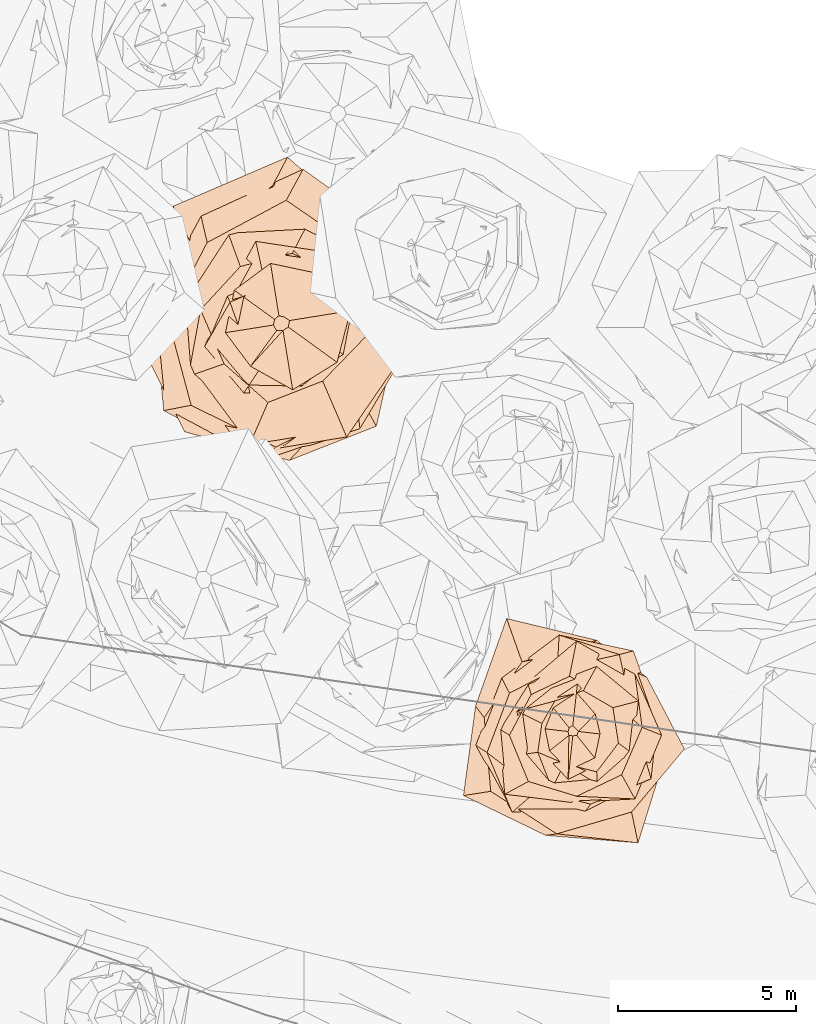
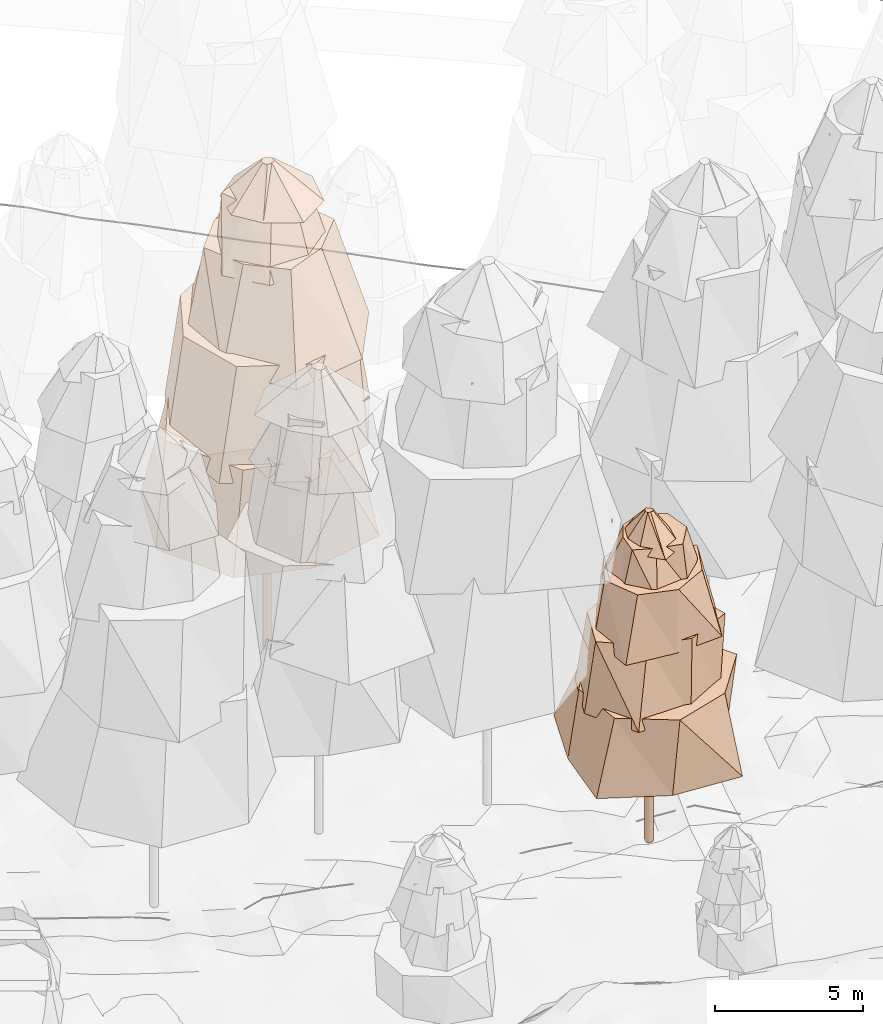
# Not in any storey, part 67 of 88: 2 geographic elements.
"""IFC4 model written with IfcOpenShell, lengths in metres."""

import ifcopenshell
import ifcopenshell.guid

model = None  # the IFC model being written
_history = None  # IfcOwnerHistory: only IFC2X3 demands one
_inside = {}  # id of a spatial element -> (the spatial element, [elements in it])
_under = {}  # id of a project, library or spatial element -> (it, [spatial elements below it])
_declared = {}  # id of a project -> (the project, [libraries it declares])
_typed = {}  # id of a type object -> (the type object, [elements of that type])
_made_of = {}  # id of a material, layer set ... -> (it, [elements and type objects made of it])


def new_model(schema):
    """Start an empty IFC model of exactly this schema.

    Asked for "IFC4X3", IfcOpenShell would pick the latest addendum, in which some entities
    have other attributes; the version numbers below select the first issue.
    IFC2X3 requires an IfcOwnerHistory on every rooted entity: one is made here for all.
    """
    global model, _history
    if schema == "IFC4X3":
        model = ifcopenshell.file(schema_version=(4, 3, 0, 0))
    else:
        model = ifcopenshell.file(schema=schema)
    _inside.clear()
    _under.clear()
    _declared.clear()
    _typed.clear()
    _made_of.clear()
    _history = None
    if model.schema == "IFC2X3":
        org = make("IfcOrganization", Name="unknown")
        user = make(
            "IfcPersonAndOrganization",
            ThePerson=make("IfcPerson", FamilyName="unknown"),
            TheOrganization=org,
        )
        app = make(
            "IfcApplication",
            ApplicationDeveloper=org,
            Version="unknown",
            ApplicationFullName="unknown",
            ApplicationIdentifier="unknown",
        )
        _history = make(
            "IfcOwnerHistory",
            OwningUser=user,
            OwningApplication=app,
            ChangeAction="ADDED",
            CreationDate=0,
        )
    return model


def make(cls, **values):
    """One entity of the class cls with the attributes given. An attribute that is None is left unset."""
    return model.create_entity(
        cls, **{name: value for name, value in values.items() if value is not None}
    )


def rooted(cls, **values):
    """An entity with a GlobalId (a new one), such as an element, a storey or a relation."""
    return make(cls, GlobalId=ifcopenshell.guid.new(), OwnerHistory=_history, **values)


def si_unit(unit_type, name, prefix=None):
    """IfcSIUnit, for example si_unit("LENGTHUNIT", "METRE", prefix="MILLI")."""
    return make("IfcSIUnit", UnitType=unit_type, Prefix=prefix, Name=name)


def assignment(units):
    """IfcUnitAssignment: the units of a project."""
    return None if units is None else make("IfcUnitAssignment", Units=units)


def point(xyz):
    """IfcCartesianPoint."""
    return None if xyz is None else make("IfcCartesianPoint", Coordinates=xyz)


def direction(xyz):
    """IfcDirection."""
    return None if xyz is None else make("IfcDirection", DirectionRatios=xyz)


def frame(location, z_axis=None, x_axis=None):
    """IfcAxis2Placement3D, a coordinate frame: its origin and axes. An axis left out is left unset."""
    return make(
        "IfcAxis2Placement3D",
        Location=point(location),
        Axis=direction(z_axis),
        RefDirection=direction(x_axis),
    )


def origin_with_axes():
    """The frame at (0, 0, 0) with the z axis (0, 0, 1) and the x axis (1, 0, 0) written out."""
    return frame((0.0, 0.0, 0.0), z_axis=(0.0, 0.0, 1.0), x_axis=(1.0, 0.0, 0.0))


def place(relative_to, where):
    """IfcLocalPlacement: puts the frame where relative to a parent placement (None: the world)."""
    return make(
        "IfcLocalPlacement", PlacementRelTo=relative_to, RelativePlacement=where
    )


def context(
    kind, dimensions, precision=None, world=None, true_north=None, identifier=None
):
    """IfcGeometricRepresentationContext, for example the 3D "Model" context."""
    return make(
        "IfcGeometricRepresentationContext",
        ContextIdentifier=identifier,
        ContextType=kind,
        CoordinateSpaceDimension=dimensions,
        Precision=precision,
        WorldCoordinateSystem=world,
        TrueNorth=true_north,
    )


def subcontext(parent, identifier, kind, view, scale=None):
    """IfcGeometricRepresentationSubContext, for example "Body" below "Model"."""
    return make(
        "IfcGeometricRepresentationSubContext",
        ContextIdentifier=identifier,
        ContextType=kind,
        ParentContext=parent,
        TargetScale=scale,
        TargetView=view,
    )


def project(units=None, contexts=None):
    """IfcProject with its units and contexts."""
    return rooted(
        "IfcProject",
        Name="project",
        RepresentationContexts=contexts,
        UnitsInContext=assignment(units),
    )


def spatial(cls, under=None, at=None, **own):
    """A site, building, storey or space (cls), placed at a placement, below another one or the project."""
    s = rooted(cls, ObjectPlacement=at, **own)
    if under is not None:
        _under.setdefault(under.id(), (under, []))[1].append(s)
    return s


def profile(cls, at=None, kind="AREA", **sizes):
    """A parametric profile (cls). Its sizes go by their IFC names, for example OverallWidth=200.0."""
    return make(cls, ProfileType=kind, Position=at, **sizes)


def circle(**sizes):
    """IfcCircleProfileDef."""
    return profile("IfcCircleProfileDef", **sizes)


def extrude(swept, where, along, depth):
    """IfcExtrudedAreaSolid: the profile swept, set in the frame where, extruded along a direction by depth."""
    return make(
        "IfcExtrudedAreaSolid",
        SweptArea=swept,
        Position=where,
        ExtrudedDirection=direction(along),
        Depth=depth,
    )


def faces_of(points, faces, orient=None, outer=None):
    """IfcFace entities. A face is a list of loops; a loop is a list of indices into points, from 0.

    orient and outer hold one flag for each loop. By default every Orientation is true, the
    first loop of a face is its IfcFaceOuterBound and the others are IfcFaceBound.
    """
    made = []
    for i, loops in enumerate(faces):
        bounds = []
        for j, loop in enumerate(loops):
            is_outer = j == 0 if outer is None else outer[i][j]
            bounds.append(
                make(
                    "IfcFaceOuterBound" if is_outer else "IfcFaceBound",
                    Bound=make("IfcPolyLoop", Polygon=[points[k] for k in loop]),
                    Orientation=True if orient is None else orient[i][j],
                )
            )
        made.append(make("IfcFace", Bounds=bounds))
    return made


def faceted_brep(points, faces, orient=None, outer=None, voids=None):
    """IfcFacetedBrep: a solid bounded by flat faces; with voids (closed shells), ...WithVoids."""
    shared = [point(p) for p in points]
    hull = make("IfcClosedShell", CfsFaces=faces_of(shared, faces, orient, outer))
    if voids is None:
        return make("IfcFacetedBrep", Outer=hull)
    return make(
        "IfcFacetedBrepWithVoids",
        Outer=hull,
        Voids=[
            make(cls, CfsFaces=faces_of(shared, fs, o, b)) for cls, fs, o, b in voids
        ],
    )


def shape(context_of_items, identifier, shape_type, items):
    """IfcShapeRepresentation: the items that make up one representation, for example the "Body"."""
    return make(
        "IfcShapeRepresentation",
        ContextOfItems=context_of_items,
        RepresentationIdentifier=identifier,
        RepresentationType=shape_type,
        Items=items,
    )


def made_of(thing, what):
    """Note that an element or type object is made of a material, layer set ...; save() writes the relation."""
    if what is not None:
        _made_of.setdefault(what.id(), (what, []))[1].append(thing)
    return thing


def element(
    cls,
    number,
    at=None,
    inside=None,
    cuts=None,
    type_object=None,
    material=None,
    context=None,
    identifier="Body",
    shape_type=None,
    held_by="IfcProductDefinitionShape",
    body=None,
    shapes=None,
    **own,
):
    """One element of the class cls, such as IfcWall. Its Tag is "e" and its number.

    at: its placement. inside: the storey or other place that contains it. cuts: it is an
    opening in that element (IfcRelVoidsElement). A single representation is given by context,
    identifier, shape_type and body (its items); several are given by shapes. held_by: the class
    of the entity that holds the representations. save() writes the other relations.
    """
    e = rooted(cls, Tag="e%d" % number, ObjectPlacement=at, **own)
    if body is not None:
        shapes = [shape(context, identifier, shape_type, body)]
    if shapes is not None:
        e.Representation = make(held_by, Representations=shapes)
    if inside is not None:
        _inside.setdefault(inside.id(), (inside, []))[1].append(e)
    if cuts is not None:
        rooted(
            "IfcRelVoidsElement", RelatingBuildingElement=cuts, RelatedOpeningElement=e
        )
    if type_object is not None:
        _typed.setdefault(type_object.id(), (type_object, []))[1].append(e)
    return made_of(e, material)


def aggregate(whole, parts):
    """IfcRelAggregates: a whole, such as a stair, and the parts it consists of."""
    return rooted("IfcRelAggregates", RelatingObject=whole, RelatedObjects=parts)


def save(model, path):
    """Write the relations noted so far, then the file.

    IfcRelAggregates (storeys below a building ...), IfcRelContainedInSpatialStructure (elements
    in a storey), IfcRelDefinesByType, IfcRelAssociatesMaterial and IfcRelDeclares: one each for
    every whole, place, type object, material and project.
    """
    for whole, parts in _under.values():
        aggregate(whole, parts)
    for where, things in _inside.values():
        rooted(
            "IfcRelContainedInSpatialStructure",
            RelatedElements=things,
            RelatingStructure=where,
        )
    for kind, things in _typed.values():
        rooted("IfcRelDefinesByType", RelatedObjects=things, RelatingType=kind)
    for what, things in _made_of.values():
        rooted("IfcRelAssociatesMaterial", RelatedObjects=things, RelatingMaterial=what)
    for by, libraries in _declared.values():
        rooted("IfcRelDeclares", RelatingContext=by, RelatedDefinitions=libraries)
    model.write(path)


model = new_model("IFC4")

# Units and contexts
model_context = context("Model", 3, precision=1e-05, world=origin_with_axes())
body_context = subcontext(model_context, "Body", "Model", "MODEL_VIEW")
ifc_project = project(units=[si_unit("LENGTHUNIT", "METRE"), si_unit("AREAUNIT", "SQUARE_METRE"), si_unit("VOLUMEUNIT", "CUBIC_METRE"), si_unit("PLANEANGLEUNIT", "RADIAN")], contexts=[model_context])

# Sites
site_1_placement = place(None, origin_with_axes())
site_1 = spatial("IfcSite", under=ifc_project, at=site_1_placement, Name="CH907857693633", CompositionType="ELEMENT")
site_2_placement = place(None, origin_with_axes())
site_2 = spatial("IfcSite", under=site_1, at=site_2_placement, Name="Simulated_forest", CompositionType="ELEMENT")

# Geographic elements
geographic_element_1_placement = place(None, frame((203.354991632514, 85.3565316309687, 5.23565673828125), z_axis=(0.0, 0.0, 1.0), x_axis=(1.0, 0.0, 0.0)))
element("IfcGeographicElement", 1, at=geographic_element_1_placement, inside=site_2, Name="Tree_SIMULATED_FOREST_DENSE", ObjectType="VEGETATION", PredefinedType="USERDEFINED", context=body_context, shape_type="Brep", body=[
    extrude(circle(Radius=0.15), origin_with_axes(), (0.0, 0.0, 1.0), 5.39744964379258),
    faceted_brep([(3.30878021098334, -0.12959812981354, 5.39744964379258), (2.68405214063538, -2.90288083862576, 5.39744964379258), (-0.1351167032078, -3.44967534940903, 5.39744964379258), (-2.8058226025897, -2.59431047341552, 5.39744964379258), (-4.22395025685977, 0.165443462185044, 5.39744964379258), (-3.03426270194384, 3.28164379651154, 5.39744964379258), (0.182622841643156, 4.66255836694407, 5.39744964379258), (2.69506072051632, 2.49189818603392, 5.39744964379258), (1.95241524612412, 2.2057616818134, 10.075465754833), (-0.235010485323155, 3.85722883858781, 10.075465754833), (-2.54001492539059, 2.248277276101, 10.075465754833), (-4.10807812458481, -0.250294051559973, 10.075465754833), (-2.70891997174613, -3.06043086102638, 10.075465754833), (0.235541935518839, -3.86595153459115, 10.075465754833), (2.09230340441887, -1.85198840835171, 10.075465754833), (3.7613809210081, 0.229170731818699, 10.075465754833), (2.69506072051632, 2.49189818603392, 5.39744964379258), (0.182622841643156, 4.66255836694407, 5.39744964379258), (-0.235010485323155, 3.85722883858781, 10.075465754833), (1.95241524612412, 2.2057616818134, 10.075465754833), (0.182622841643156, 4.66255836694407, 5.39744964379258), (-3.03426270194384, 3.28164379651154, 5.39744964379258), (-2.54001492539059, 2.248277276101, 10.075465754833), (-0.235010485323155, 3.85722883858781, 10.075465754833), (-3.03426270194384, 3.28164379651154, 5.39744964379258), (-4.22395025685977, 0.165443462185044, 5.39744964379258), (-4.10807812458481, -0.250294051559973, 10.075465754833), (-2.54001492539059, 2.248277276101, 10.075465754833), (-4.22395025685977, 0.165443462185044, 5.39744964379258), (-2.8058226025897, -2.59431047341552, 5.39744964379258), (-2.70891997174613, -3.06043086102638, 10.075465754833), (-4.10807812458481, -0.250294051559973, 10.075465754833), (-2.8058226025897, -2.59431047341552, 5.39744964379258), (-0.1351167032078, -3.44967534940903, 5.39744964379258), (0.235541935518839, -3.86595153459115, 10.075465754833), (-2.70891997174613, -3.06043086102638, 10.075465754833), (-0.1351167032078, -3.44967534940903, 5.39744964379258), (2.68405214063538, -2.90288083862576, 5.39744964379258), (2.09230340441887, -1.85198840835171, 10.075465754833), (0.235541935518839, -3.86595153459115, 10.075465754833), (2.68405214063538, -2.90288083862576, 5.39744964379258), (3.30878021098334, -0.12959812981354, 5.39744964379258), (3.7613809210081, 0.229170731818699, 10.075465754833), (2.09230340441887, -1.85198840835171, 10.075465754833), (3.30878021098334, -0.12959812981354, 5.39744964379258), (2.69506072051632, 2.49189818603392, 5.39744964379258), (1.95241524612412, 2.2057616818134, 10.075465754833), (3.7613809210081, 0.229170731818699, 10.075465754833)], [[[0, 1, 2, 3, 4, 5, 6, 7]], [[8, 9, 10, 11, 12, 13, 14, 15]], [[16, 17, 18, 19]], [[20, 21, 22, 23]], [[24, 25, 26, 27]], [[28, 29, 30, 31]], [[32, 33, 34, 35]], [[36, 37, 38, 39]], [[40, 41, 42, 43]], [[44, 45, 46, 47]]]),
    faceted_brep([(3.67914572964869, -0.529974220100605, 9.37376333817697), (2.22179501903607, -2.96960699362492, 9.37376333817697), (-0.5652646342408, -3.92413609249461, 9.37376333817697), (-3.29466813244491, -2.46499865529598, 9.37376333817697), (-3.58811967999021, 0.516862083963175, 9.37376333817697), (-2.24671112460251, 3.0029093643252, 9.37376333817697), (0.622586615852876, 4.3220722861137, 9.37376333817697), (3.25563357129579, 2.43579385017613, 9.37376333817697), (2.21023597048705, 2.02762359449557, 13.8144603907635), (0.148698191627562, 3.450817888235, 13.8144603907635), (-2.0746325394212, 2.26147864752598, 13.8144603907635), (-3.18376103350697, 0.137190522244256, 13.8144603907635), (-2.52448567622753, -2.31590960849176, 13.8144603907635), (-0.150479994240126, -3.49216792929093, 13.8144603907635), (2.14498495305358, -2.33816715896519, 13.8144603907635), (2.99810567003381, -0.129190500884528, 13.8144603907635), (3.25563357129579, 2.43579385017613, 9.37376333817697), (0.622586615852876, 4.3220722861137, 9.37376333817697), (0.148698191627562, 3.450817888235, 13.8144603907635), (2.21023597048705, 2.02762359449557, 13.8144603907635), (0.622586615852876, 4.3220722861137, 9.37376333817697), (-2.24671112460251, 3.0029093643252, 9.37376333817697), (-2.0746325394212, 2.26147864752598, 13.8144603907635), (0.148698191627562, 3.450817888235, 13.8144603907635), (-2.24671112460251, 3.0029093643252, 9.37376333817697), (-3.58811967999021, 0.516862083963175, 9.37376333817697), (-3.18376103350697, 0.137190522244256, 13.8144603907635), (-2.0746325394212, 2.26147864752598, 13.8144603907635), (-3.58811967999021, 0.516862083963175, 9.37376333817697), (-3.29466813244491, -2.46499865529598, 9.37376333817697), (-2.52448567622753, -2.31590960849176, 13.8144603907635), (-3.18376103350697, 0.137190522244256, 13.8144603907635), (-3.29466813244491, -2.46499865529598, 9.37376333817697), (-0.5652646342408, -3.92413609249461, 9.37376333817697), (-0.150479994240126, -3.49216792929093, 13.8144603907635), (-2.52448567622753, -2.31590960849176, 13.8144603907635), (-0.5652646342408, -3.92413609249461, 9.37376333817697), (2.22179501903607, -2.96960699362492, 9.37376333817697), (2.14498495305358, -2.33816715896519, 13.8144603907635), (-0.150479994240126, -3.49216792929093, 13.8144603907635), (2.22179501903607, -2.96960699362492, 9.37376333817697), (3.67914572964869, -0.529974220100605, 9.37376333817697), (2.99810567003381, -0.129190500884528, 13.8144603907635), (2.14498495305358, -2.33816715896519, 13.8144603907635), (3.67914572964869, -0.529974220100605, 9.37376333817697), (3.25563357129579, 2.43579385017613, 9.37376333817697), (2.21023597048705, 2.02762359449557, 13.8144603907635), (2.99810567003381, -0.129190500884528, 13.8144603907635)], [[[0, 1, 2, 3, 4, 5, 6, 7]], [[8, 9, 10, 11, 12, 13, 14, 15]], [[16, 17, 18, 19]], [[20, 21, 22, 23]], [[24, 25, 26, 27]], [[28, 29, 30, 31]], [[32, 33, 34, 35]], [[36, 37, 38, 39]], [[40, 41, 42, 43]], [[44, 45, 46, 47]]]),
    faceted_brep([(3.42465440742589, -0.919409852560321, 13.1483558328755), (1.84818772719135, -3.20473553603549, 13.1483558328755), (-0.986219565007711, -3.67350988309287, 13.1483558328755), (-2.60231012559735, -1.50076584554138, 13.1483558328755), (-2.77741871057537, 0.745647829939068, 13.1483558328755), (-1.53397814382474, 2.65989985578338, 13.1483558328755), (0.746198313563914, 2.77946917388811, 13.1483558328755), (3.19497496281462, 1.84255875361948, 13.1483558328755), (1.73551945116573, 1.24718227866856, 17.0019377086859), (0.320642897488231, 1.95844629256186, 17.0019377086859), (-1.14089431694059, 1.5876141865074, 17.0019377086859), (-2.26115726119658, 0.370203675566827, 17.0019377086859), (-1.59965706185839, -1.14954859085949, 17.0019377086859), (-0.365926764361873, -2.2350344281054, 17.0019377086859), (1.17475207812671, -1.63472903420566, 17.0019377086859), (2.37875321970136, -0.389456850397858, 17.0019377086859), (3.19497496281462, 1.84255875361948, 13.1483558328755), (0.746198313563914, 2.77946917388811, 13.1483558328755), (0.320642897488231, 1.95844629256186, 17.0019377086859), (1.73551945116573, 1.24718227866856, 17.0019377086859), (0.746198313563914, 2.77946917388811, 13.1483558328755), (-1.53397814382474, 2.65989985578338, 13.1483558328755), (-1.14089431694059, 1.5876141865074, 17.0019377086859), (0.320642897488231, 1.95844629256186, 17.0019377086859), (-1.53397814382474, 2.65989985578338, 13.1483558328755), (-2.77741871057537, 0.745647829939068, 13.1483558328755), (-2.26115726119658, 0.370203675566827, 17.0019377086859), (-1.14089431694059, 1.5876141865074, 17.0019377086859), (-2.77741871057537, 0.745647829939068, 13.1483558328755), (-2.60231012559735, -1.50076584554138, 13.1483558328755), (-1.59965706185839, -1.14954859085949, 17.0019377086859), (-2.26115726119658, 0.370203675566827, 17.0019377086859), (-2.60231012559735, -1.50076584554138, 13.1483558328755), (-0.986219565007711, -3.67350988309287, 13.1483558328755), (-0.365926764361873, -2.2350344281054, 17.0019377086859), (-1.59965706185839, -1.14954859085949, 17.0019377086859), (-0.986219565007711, -3.67350988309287, 13.1483558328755), (1.84818772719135, -3.20473553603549, 13.1483558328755), (1.17475207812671, -1.63472903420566, 17.0019377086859), (-0.365926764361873, -2.2350344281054, 17.0019377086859), (1.84818772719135, -3.20473553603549, 13.1483558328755), (3.42465440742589, -0.919409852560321, 13.1483558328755), (2.37875321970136, -0.389456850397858, 17.0019377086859), (1.17475207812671, -1.63472903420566, 17.0019377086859), (3.42465440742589, -0.919409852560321, 13.1483558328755), (3.19497496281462, 1.84255875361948, 13.1483558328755), (1.73551945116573, 1.24718227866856, 17.0019377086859), (2.37875321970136, -0.389456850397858, 17.0019377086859)], [[[0, 1, 2, 3, 4, 5, 6, 7]], [[8, 9, 10, 11, 12, 13, 14, 15]], [[16, 17, 18, 19]], [[20, 21, 22, 23]], [[24, 25, 26, 27]], [[28, 29, 30, 31]], [[32, 33, 34, 35]], [[36, 37, 38, 39]], [[40, 41, 42, 43]], [[44, 45, 46, 47]]]),
    faceted_brep([(1.88974833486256, -0.999731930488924, 16.4239004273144), (0.617847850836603, -2.00587221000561, 16.4239004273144), (-1.04263790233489, -1.97085156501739, 16.4239004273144), (-2.14572780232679, -0.660926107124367, 16.4239004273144), (-1.52566065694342, 0.807118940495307, 16.4239004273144), (-0.706369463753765, 2.29326180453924, 16.4239004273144), (1.07101521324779, 2.02449192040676, 16.4239004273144), (2.21772980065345, 0.683104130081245, 16.4239004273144), (1.42101481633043, 0.598782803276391, 18.8331390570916), (0.420837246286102, 1.03377885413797, 18.8331390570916), (-0.428173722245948, 1.0161300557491, 18.8331390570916), (-1.43252962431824, 0.583163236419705, 18.8331390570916), (-1.06208864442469, -0.447539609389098, 18.8331390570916), (-0.421628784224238, -1.03572325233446, 18.8331390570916), (0.44994177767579, -1.06778940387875, 18.8331390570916), (1.3084044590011, -0.532633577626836, 18.8331390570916), (2.21772980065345, 0.683104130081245, 16.4239004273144), (1.07101521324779, 2.02449192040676, 16.4239004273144), (0.420837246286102, 1.03377885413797, 18.8331390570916), (1.42101481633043, 0.598782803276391, 18.8331390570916), (1.07101521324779, 2.02449192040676, 16.4239004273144), (-0.706369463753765, 2.29326180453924, 16.4239004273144), (-0.428173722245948, 1.0161300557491, 18.8331390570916), (0.420837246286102, 1.03377885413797, 18.8331390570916), (-0.706369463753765, 2.29326180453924, 16.4239004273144), (-1.52566065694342, 0.807118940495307, 16.4239004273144), (-1.43252962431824, 0.583163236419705, 18.8331390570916), (-0.428173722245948, 1.0161300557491, 18.8331390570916), (-1.52566065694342, 0.807118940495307, 16.4239004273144), (-2.14572780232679, -0.660926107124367, 16.4239004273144), (-1.06208864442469, -0.447539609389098, 18.8331390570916), (-1.43252962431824, 0.583163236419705, 18.8331390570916), (-2.14572780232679, -0.660926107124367, 16.4239004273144), (-1.04263790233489, -1.97085156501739, 16.4239004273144), (-0.421628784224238, -1.03572325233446, 18.8331390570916), (-1.06208864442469, -0.447539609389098, 18.8331390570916), (-1.04263790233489, -1.97085156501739, 16.4239004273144), (0.617847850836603, -2.00587221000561, 16.4239004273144), (0.44994177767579, -1.06778940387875, 18.8331390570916), (-0.421628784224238, -1.03572325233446, 18.8331390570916), (0.617847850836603, -2.00587221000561, 16.4239004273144), (1.88974833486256, -0.999731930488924, 16.4239004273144), (1.3084044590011, -0.532633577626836, 18.8331390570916), (0.44994177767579, -1.06778940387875, 18.8331390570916), (1.88974833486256, -0.999731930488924, 16.4239004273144), (2.21772980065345, 0.683104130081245, 16.4239004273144), (1.42101481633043, 0.598782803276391, 18.8331390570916), (1.3084044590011, -0.532633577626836, 18.8331390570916)], [[[0, 1, 2, 3, 4, 5, 6, 7]], [[8, 9, 10, 11, 12, 13, 14, 15]], [[16, 17, 18, 19]], [[20, 21, 22, 23]], [[24, 25, 26, 27]], [[28, 29, 30, 31]], [[32, 33, 34, 35]], [[36, 37, 38, 39]], [[40, 41, 42, 43]], [[44, 45, 46, 47]]]),
    faceted_brep([(1.57759669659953, -1.10720765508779, 18.471753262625), (0.329560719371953, -1.88100907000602, 18.471753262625), (-0.85490700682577, -1.21810797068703, 18.471753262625), (-1.56076653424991, -0.273452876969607, 18.471753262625), (-1.31126616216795, 0.92028839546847, 18.471753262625), (-0.293423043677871, 1.67474876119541, 18.471753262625), (0.985482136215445, 1.40415698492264, 18.471753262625), (1.95445928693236, 0.342429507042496, 18.471753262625), (0.240462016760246, 0.0674422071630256, 20.0073572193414), (0.0941345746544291, 0.167520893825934, 20.0073572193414), (-0.0566605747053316, 0.202020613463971, 20.0073572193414), (-0.178332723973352, 0.100210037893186, 20.0073572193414), (-0.210072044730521, -0.0589187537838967, 20.0073572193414), (-0.121534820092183, -0.216282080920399, 20.0073572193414), (0.0588254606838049, -0.209739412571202, 20.0073572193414), (0.207638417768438, -0.116677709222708, 20.0073572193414), (1.95445928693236, 0.342429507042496, 18.471753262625), (0.985482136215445, 1.40415698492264, 18.471753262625), (0.0941345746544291, 0.167520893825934, 20.0073572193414), (0.240462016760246, 0.0674422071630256, 20.0073572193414), (0.985482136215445, 1.40415698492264, 18.471753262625), (-0.293423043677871, 1.67474876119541, 18.471753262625), (-0.0566605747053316, 0.202020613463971, 20.0073572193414), (0.0941345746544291, 0.167520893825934, 20.0073572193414), (-0.293423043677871, 1.67474876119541, 18.471753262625), (-1.31126616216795, 0.92028839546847, 18.471753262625), (-0.178332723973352, 0.100210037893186, 20.0073572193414), (-0.0566605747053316, 0.202020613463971, 20.0073572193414), (-1.31126616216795, 0.92028839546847, 18.471753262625), (-1.56076653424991, -0.273452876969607, 18.471753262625), (-0.210072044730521, -0.0589187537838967, 20.0073572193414), (-0.178332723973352, 0.100210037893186, 20.0073572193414), (-1.56076653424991, -0.273452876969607, 18.471753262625), (-0.85490700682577, -1.21810797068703, 18.471753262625), (-0.121534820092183, -0.216282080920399, 20.0073572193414), (-0.210072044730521, -0.0589187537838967, 20.0073572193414), (-0.85490700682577, -1.21810797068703, 18.471753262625), (0.329560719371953, -1.88100907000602, 18.471753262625), (0.0588254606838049, -0.209739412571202, 20.0073572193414), (-0.121534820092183, -0.216282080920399, 20.0073572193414), (0.329560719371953, -1.88100907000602, 18.471753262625), (1.57759669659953, -1.10720765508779, 18.471753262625), (0.207638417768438, -0.116677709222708, 20.0073572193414), (0.0588254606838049, -0.209739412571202, 20.0073572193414), (1.57759669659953, -1.10720765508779, 18.471753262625), (1.95445928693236, 0.342429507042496, 18.471753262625), (0.240462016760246, 0.0674422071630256, 20.0073572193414), (0.207638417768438, -0.116677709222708, 20.0073572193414)], [[[0, 1, 2, 3, 4, 5, 6, 7]], [[8, 9, 10, 11, 12, 13, 14, 15]], [[16, 17, 18, 19]], [[20, 21, 22, 23]], [[24, 25, 26, 27]], [[28, 29, 30, 31]], [[32, 33, 34, 35]], [[36, 37, 38, 39]], [[40, 41, 42, 43]], [[44, 45, 46, 47]]]),
])
geographic_element_2_placement = place(None, frame((211.562755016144, 73.8679273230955, 1.38568115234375), z_axis=(0.0, 0.0, 1.0), x_axis=(1.0, 0.0, 0.0)))
element("IfcGeographicElement", 2, at=geographic_element_2_placement, inside=site_2, Name="Tree_SIMULATED_FOREST_DENSE", ObjectType="VEGETATION", PredefinedType="USERDEFINED", context=body_context, shape_type="Brep", body=[
    extrude(circle(Radius=0.15), origin_with_axes(), (0.0, 0.0, 1.0), 3.87971884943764),
    faceted_brep([(2.60063330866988, -0.678986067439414, 3.87971884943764), (1.83530801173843, -3.13226672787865, 3.87971884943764), (-0.762932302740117, -2.92216181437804, 3.87971884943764), (-3.07528753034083, -1.80192184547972, 3.87971884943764), (-2.73501636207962, 0.714071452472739, 3.87971884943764), (-1.86156593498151, 3.17708036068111, 3.87971884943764), (0.670105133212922, 2.56661780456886, 3.87971884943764), (2.18152175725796, 1.27823225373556, 3.87971884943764), (2.08401798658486, 1.51953345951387, 6.84660622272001), (0.364982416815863, 2.32997159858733, 6.84660622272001), (-1.42712852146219, 1.95728596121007, 6.84660622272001), (-2.49128745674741, 0.390252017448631, 6.84660622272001), (-2.30783081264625, -1.68272354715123, 6.84660622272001), (-0.450995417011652, -2.87906064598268, 6.84660622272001), (1.65231599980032, -2.2661273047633, 6.84660622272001), (3.13873434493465, -0.491672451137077, 6.84660622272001), (2.18152175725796, 1.27823225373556, 3.87971884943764), (0.670105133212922, 2.56661780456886, 3.87971884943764), (0.364982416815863, 2.32997159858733, 6.84660622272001), (2.08401798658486, 1.51953345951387, 6.84660622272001), (0.670105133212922, 2.56661780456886, 3.87971884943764), (-1.86156593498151, 3.17708036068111, 3.87971884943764), (-1.42712852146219, 1.95728596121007, 6.84660622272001), (0.364982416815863, 2.32997159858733, 6.84660622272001), (-1.86156593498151, 3.17708036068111, 3.87971884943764), (-2.73501636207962, 0.714071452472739, 3.87971884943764), (-2.49128745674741, 0.390252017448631, 6.84660622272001), (-1.42712852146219, 1.95728596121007, 6.84660622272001), (-2.73501636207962, 0.714071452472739, 3.87971884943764), (-3.07528753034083, -1.80192184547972, 3.87971884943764), (-2.30783081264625, -1.68272354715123, 6.84660622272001), (-2.49128745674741, 0.390252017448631, 6.84660622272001), (-3.07528753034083, -1.80192184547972, 3.87971884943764), (-0.762932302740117, -2.92216181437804, 3.87971884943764), (-0.450995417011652, -2.87906064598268, 6.84660622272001), (-2.30783081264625, -1.68272354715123, 6.84660622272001), (-0.762932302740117, -2.92216181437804, 3.87971884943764), (1.83530801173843, -3.13226672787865, 3.87971884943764), (1.65231599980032, -2.2661273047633, 6.84660622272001), (-0.450995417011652, -2.87906064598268, 6.84660622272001), (1.83530801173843, -3.13226672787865, 3.87971884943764), (2.60063330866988, -0.678986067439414, 3.87971884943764), (3.13873434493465, -0.491672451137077, 6.84660622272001), (1.65231599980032, -2.2661273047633, 6.84660622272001), (2.60063330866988, -0.678986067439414, 3.87971884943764), (2.18152175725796, 1.27823225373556, 3.87971884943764), (2.08401798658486, 1.51953345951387, 6.84660622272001), (3.13873434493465, -0.491672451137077, 6.84660622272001)], [[[0, 1, 2, 3, 4, 5, 6, 7]], [[8, 9, 10, 11, 12, 13, 14, 15]], [[16, 17, 18, 19]], [[20, 21, 22, 23]], [[24, 25, 26, 27]], [[28, 29, 30, 31]], [[32, 33, 34, 35]], [[36, 37, 38, 39]], [[40, 41, 42, 43]], [[44, 45, 46, 47]]]),
    faceted_brep([(1.93154183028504, -1.45131850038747, 6.40157311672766), (0.323390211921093, -2.2780732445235, 6.40157311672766), (-1.70581469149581, -2.27024766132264, 6.40157311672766), (-2.72832387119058, -0.387306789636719, 6.40157311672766), (-1.99818183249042, 1.50139034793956, 6.40157311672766), (-0.384846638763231, 2.71099371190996, 6.40157311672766), (1.70324476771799, 2.26682738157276, 6.40157311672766), (2.38186999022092, 0.338124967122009, 6.40157311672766), (1.70103189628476, 0.418102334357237, 9.36893832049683), (1.30936577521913, 2.16280138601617, 9.36893832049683), (-0.435801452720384, 1.77304002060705, 9.36893832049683), (-1.78157230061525, 1.07856866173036, 9.36893832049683), (-2.41204888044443, -0.592865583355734, 9.36893832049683), (-1.01224874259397, -1.672025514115, 9.36893832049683), (0.501972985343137, -2.04225613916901, 9.36893832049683), (2.19871433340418, -1.3311075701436, 9.36893832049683), (2.38186999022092, 0.338124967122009, 6.40157311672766), (1.70324476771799, 2.26682738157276, 6.40157311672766), (1.30936577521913, 2.16280138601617, 9.36893832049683), (1.70103189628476, 0.418102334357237, 9.36893832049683), (1.70324476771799, 2.26682738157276, 6.40157311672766), (-0.384846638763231, 2.71099371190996, 6.40157311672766), (-0.435801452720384, 1.77304002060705, 9.36893832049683), (1.30936577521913, 2.16280138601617, 9.36893832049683), (-0.384846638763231, 2.71099371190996, 6.40157311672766), (-1.99818183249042, 1.50139034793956, 6.40157311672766), (-1.78157230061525, 1.07856866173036, 9.36893832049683), (-0.435801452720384, 1.77304002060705, 9.36893832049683), (-1.99818183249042, 1.50139034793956, 6.40157311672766), (-2.72832387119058, -0.387306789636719, 6.40157311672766), (-2.41204888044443, -0.592865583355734, 9.36893832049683), (-1.78157230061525, 1.07856866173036, 9.36893832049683), (-2.72832387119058, -0.387306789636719, 6.40157311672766), (-1.70581469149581, -2.27024766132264, 6.40157311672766), (-1.01224874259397, -1.672025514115, 9.36893832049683), (-2.41204888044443, -0.592865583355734, 9.36893832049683), (-1.70581469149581, -2.27024766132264, 6.40157311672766), (0.323390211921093, -2.2780732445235, 6.40157311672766), (0.501972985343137, -2.04225613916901, 9.36893832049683), (-1.01224874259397, -1.672025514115, 9.36893832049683), (0.323390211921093, -2.2780732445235, 6.40157311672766), (1.93154183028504, -1.45131850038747, 6.40157311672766), (2.19871433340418, -1.3311075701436, 9.36893832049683), (0.501972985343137, -2.04225613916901, 9.36893832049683), (1.93154183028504, -1.45131850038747, 6.40157311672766), (2.38186999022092, 0.338124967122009, 6.40157311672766), (1.70103189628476, 0.418102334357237, 9.36893832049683), (2.19871433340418, -1.3311075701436, 9.36893832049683)], [[[0, 1, 2, 3, 4, 5, 6, 7]], [[8, 9, 10, 11, 12, 13, 14, 15]], [[16, 17, 18, 19]], [[20, 21, 22, 23]], [[24, 25, 26, 27]], [[28, 29, 30, 31]], [[32, 33, 34, 35]], [[36, 37, 38, 39]], [[40, 41, 42, 43]], [[44, 45, 46, 47]]]),
    faceted_brep([(2.49629236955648, -0.10144620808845, 8.92383353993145), (1.7498303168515, -1.89807670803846, 8.92383353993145), (-0.080942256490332, -1.99175051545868, 8.92383353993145), (-1.91327886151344, -1.76384512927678, 8.92383353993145), (-2.08019498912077, 0.0845365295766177, 8.92383353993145), (-1.27043427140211, 1.37806601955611, 8.92383353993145), (0.103150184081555, 2.53822219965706, 8.92383353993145), (1.74723778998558, 1.61077244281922, 8.92383353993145), (0.898979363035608, 1.01263130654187, 11.3765612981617), (-0.0923474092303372, 1.55327121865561, 11.3765612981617), (-1.1702047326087, 1.03886764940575, 11.3765612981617), (-1.7840564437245, -0.106068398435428, 11.3765612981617), (-1.2487413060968, -1.40661131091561, 11.3765612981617), (0.10833900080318, -1.82224767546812, 11.3765612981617), (1.37323643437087, -1.21911223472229, 11.3765612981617), (1.94937165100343, 0.115896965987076, 11.3765612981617), (1.74723778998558, 1.61077244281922, 8.92383353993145), (0.103150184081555, 2.53822219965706, 8.92383353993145), (-0.0923474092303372, 1.55327121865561, 11.3765612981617), (0.898979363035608, 1.01263130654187, 11.3765612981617), (0.103150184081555, 2.53822219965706, 8.92383353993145), (-1.27043427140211, 1.37806601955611, 8.92383353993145), (-1.1702047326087, 1.03886764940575, 11.3765612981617), (-0.0923474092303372, 1.55327121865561, 11.3765612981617), (-1.27043427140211, 1.37806601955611, 8.92383353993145), (-2.08019498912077, 0.0845365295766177, 8.92383353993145), (-1.7840564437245, -0.106068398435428, 11.3765612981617), (-1.1702047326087, 1.03886764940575, 11.3765612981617), (-2.08019498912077, 0.0845365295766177, 8.92383353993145), (-1.91327886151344, -1.76384512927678, 8.92383353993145), (-1.2487413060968, -1.40661131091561, 11.3765612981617), (-1.7840564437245, -0.106068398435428, 11.3765612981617), (-1.91327886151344, -1.76384512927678, 8.92383353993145), (-0.080942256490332, -1.99175051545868, 8.92383353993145), (0.10833900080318, -1.82224767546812, 11.3765612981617), (-1.2487413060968, -1.40661131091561, 11.3765612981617), (-0.080942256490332, -1.99175051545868, 8.92383353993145), (1.7498303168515, -1.89807670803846, 8.92383353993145), (1.37323643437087, -1.21911223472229, 11.3765612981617), (0.10833900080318, -1.82224767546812, 11.3765612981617), (1.7498303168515, -1.89807670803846, 8.92383353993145), (2.49629236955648, -0.10144620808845, 8.92383353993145), (1.94937165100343, 0.115896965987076, 11.3765612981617), (1.37323643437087, -1.21911223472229, 11.3765612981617), (2.49629236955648, -0.10144620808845, 8.92383353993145), (1.74723778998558, 1.61077244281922, 8.92383353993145), (0.898979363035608, 1.01263130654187, 11.3765612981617), (1.94937165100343, 0.115896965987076, 11.3765612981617)], [[[0, 1, 2, 3, 4, 5, 6, 7]], [[8, 9, 10, 11, 12, 13, 14, 15]], [[16, 17, 18, 19]], [[20, 21, 22, 23]], [[24, 25, 26, 27]], [[28, 29, 30, 31]], [[32, 33, 34, 35]], [[36, 37, 38, 39]], [[40, 41, 42, 43]], [[44, 45, 46, 47]]]),
    faceted_brep([(1.671977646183, -0.611918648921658, 11.0086521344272), (0.68806409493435, -1.48243356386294, 11.0086521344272), (-0.58729030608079, -1.60468432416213, 11.0086521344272), (-1.3973933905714, -0.648593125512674, 11.0086521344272), (-1.56921764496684, 0.574310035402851, 11.0086521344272), (-0.618061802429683, 1.3316136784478, 11.0086521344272), (0.669372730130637, 1.82896246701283, 11.0086521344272), (1.84483982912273, 0.8562731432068, 11.0086521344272), (1.12869585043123, 0.668245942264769, 12.6329479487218), (0.294414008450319, 1.14897370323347, 12.6329479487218), (-0.506263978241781, 0.855101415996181, 12.6329479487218), (-0.86896711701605, 0.222664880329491, 12.6329479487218), (-0.984420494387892, -0.582827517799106, 12.6329479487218), (-0.232293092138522, -0.906541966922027, 12.6329479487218), (0.671545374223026, -1.13426873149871, 12.6329479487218), (1.28334091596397, -0.328844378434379, 12.6329479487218), (1.84483982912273, 0.8562731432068, 11.0086521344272), (0.669372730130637, 1.82896246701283, 11.0086521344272), (0.294414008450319, 1.14897370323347, 12.6329479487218), (1.12869585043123, 0.668245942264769, 12.6329479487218), (0.669372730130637, 1.82896246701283, 11.0086521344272), (-0.618061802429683, 1.3316136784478, 11.0086521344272), (-0.506263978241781, 0.855101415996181, 12.6329479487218), (0.294414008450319, 1.14897370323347, 12.6329479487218), (-0.618061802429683, 1.3316136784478, 11.0086521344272), (-1.56921764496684, 0.574310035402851, 11.0086521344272), (-0.86896711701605, 0.222664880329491, 12.6329479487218), (-0.506263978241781, 0.855101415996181, 12.6329479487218), (-1.56921764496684, 0.574310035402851, 11.0086521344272), (-1.3973933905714, -0.648593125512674, 11.0086521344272), (-0.984420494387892, -0.582827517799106, 12.6329479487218), (-0.86896711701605, 0.222664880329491, 12.6329479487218), (-1.3973933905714, -0.648593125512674, 11.0086521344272), (-0.58729030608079, -1.60468432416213, 11.0086521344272), (-0.232293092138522, -0.906541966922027, 12.6329479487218), (-0.984420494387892, -0.582827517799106, 12.6329479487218), (-0.58729030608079, -1.60468432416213, 11.0086521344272), (0.68806409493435, -1.48243356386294, 11.0086521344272), (0.671545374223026, -1.13426873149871, 12.6329479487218), (-0.232293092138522, -0.906541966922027, 12.6329479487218), (0.68806409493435, -1.48243356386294, 11.0086521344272), (1.671977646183, -0.611918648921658, 11.0086521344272), (1.28334091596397, -0.328844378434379, 12.6329479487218), (0.671545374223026, -1.13426873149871, 12.6329479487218), (1.671977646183, -0.611918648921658, 11.0086521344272), (1.84483982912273, 0.8562731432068, 11.0086521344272), (1.12869585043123, 0.668245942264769, 12.6329479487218), (1.28334091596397, -0.328844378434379, 12.6329479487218)], [[[0, 1, 2, 3, 4, 5, 6, 7]], [[8, 9, 10, 11, 12, 13, 14, 15]], [[16, 17, 18, 19]], [[20, 21, 22, 23]], [[24, 25, 26, 27]], [[28, 29, 30, 31]], [[32, 33, 34, 35]], [[36, 37, 38, 39]], [[40, 41, 42, 43]], [[44, 45, 46, 47]]]),
    faceted_brep([(0.926604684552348, -0.0904844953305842, 12.3893035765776), (0.750725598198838, -0.913211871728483, 12.3893035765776), (-0.131662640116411, -1.34828866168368, 12.3893035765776), (-0.791468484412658, -0.650643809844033, 12.3893035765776), (-0.946428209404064, 0.0924202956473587, 12.3893035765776), (-0.666165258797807, 0.810349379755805, 12.3893035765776), (0.130537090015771, 1.33676248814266, 12.3893035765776), (0.754520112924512, 0.620269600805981, 12.3893035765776), (0.0851949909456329, 0.0856489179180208, 13.5743429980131), (-0.000450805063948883, 0.16966892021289, 13.5743429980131), (-0.102891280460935, 0.102345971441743, 13.5743429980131), (-0.133996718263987, -0.000356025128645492, 13.5743429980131), (-0.110256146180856, -0.11084360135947, 13.5743429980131), (0.000328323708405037, -0.123570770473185, 13.5743429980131), (0.110701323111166, -0.110114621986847, 13.5743429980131), (0.159997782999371, 0.000425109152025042, 13.5743429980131), (0.754520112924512, 0.620269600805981, 12.3893035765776), (0.130537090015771, 1.33676248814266, 12.3893035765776), (-0.000450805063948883, 0.16966892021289, 13.5743429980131), (0.0851949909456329, 0.0856489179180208, 13.5743429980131), (0.130537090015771, 1.33676248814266, 12.3893035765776), (-0.666165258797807, 0.810349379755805, 12.3893035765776), (-0.102891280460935, 0.102345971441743, 13.5743429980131), (-0.000450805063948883, 0.16966892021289, 13.5743429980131), (-0.666165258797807, 0.810349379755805, 12.3893035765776), (-0.946428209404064, 0.0924202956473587, 12.3893035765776), (-0.133996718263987, -0.000356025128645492, 13.5743429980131), (-0.102891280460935, 0.102345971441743, 13.5743429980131), (-0.946428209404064, 0.0924202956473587, 12.3893035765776), (-0.791468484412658, -0.650643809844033, 12.3893035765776), (-0.110256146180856, -0.11084360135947, 13.5743429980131), (-0.133996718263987, -0.000356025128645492, 13.5743429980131), (-0.791468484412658, -0.650643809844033, 12.3893035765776), (-0.131662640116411, -1.34828866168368, 12.3893035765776), (0.000328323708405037, -0.123570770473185, 13.5743429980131), (-0.110256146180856, -0.11084360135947, 13.5743429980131), (-0.131662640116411, -1.34828866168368, 12.3893035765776), (0.750725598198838, -0.913211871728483, 12.3893035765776), (0.110701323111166, -0.110114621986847, 13.5743429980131), (0.000328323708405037, -0.123570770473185, 13.5743429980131), (0.750725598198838, -0.913211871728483, 12.3893035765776), (0.926604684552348, -0.0904844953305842, 12.3893035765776), (0.159997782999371, 0.000425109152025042, 13.5743429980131), (0.110701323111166, -0.110114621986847, 13.5743429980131), (0.926604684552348, -0.0904844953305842, 12.3893035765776), (0.754520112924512, 0.620269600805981, 12.3893035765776), (0.0851949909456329, 0.0856489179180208, 13.5743429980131), (0.159997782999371, 0.000425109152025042, 13.5743429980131)], [[[0, 1, 2, 3, 4, 5, 6, 7]], [[8, 9, 10, 11, 12, 13, 14, 15]], [[16, 17, 18, 19]], [[20, 21, 22, 23]], [[24, 25, 26, 27]], [[28, 29, 30, 31]], [[32, 33, 34, 35]], [[36, 37, 38, 39]], [[40, 41, 42, 43]], [[44, 45, 46, 47]]]),
])

save(model, "model.ifc")
